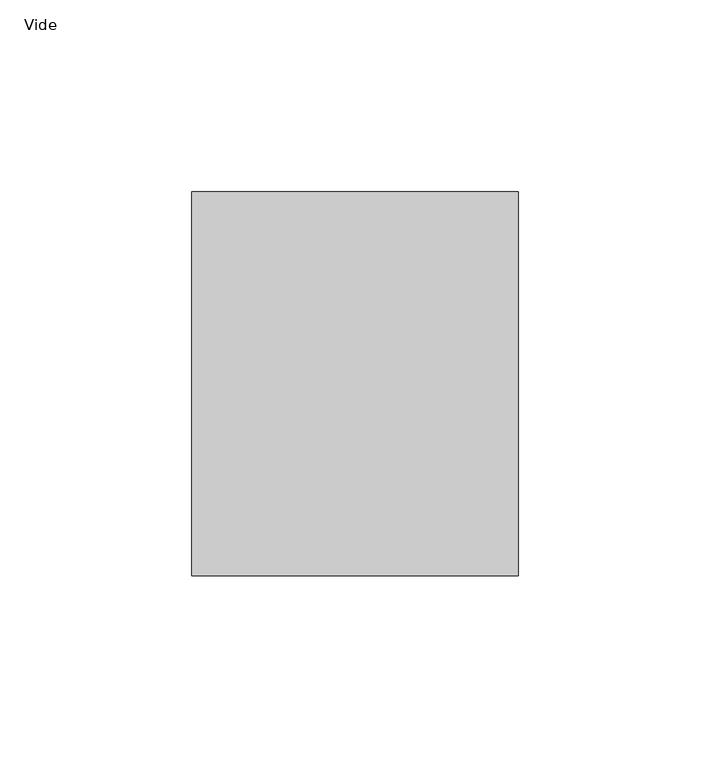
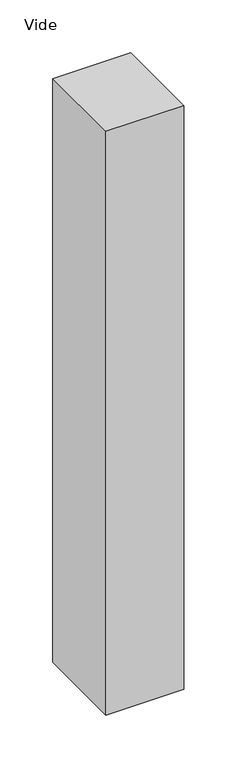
"""IFC4 building model written with IfcOpenShell, lengths in millimetres: plate geometry, Panneau système vide : Vide."""

from ifc_helpers import new_model, si_unit, origin, origin_with_axes, place, context, project, spatial, polyline, outline, extrude, source, transform, mapped, element, save


def vide_02c59cd9(model_context):
    return source(origin(), model_context, "Body", "SweptSolid", [
        extrude(outline(polyline([(42.5, 50.0), (-42.5, 50.0), (-42.5, 150.0), (42.5, 150.0), (42.5, 50.0)])), origin_with_axes(), (0.0, 0.0, 1.0), 672.9295173),
    ])


if __name__ == "__main__":
    model = new_model("IFC4")
    model_context = context("Model", 3, world=origin())
    ifc_project = project(units=[si_unit("LENGTHUNIT", "METRE", prefix="MILLI")], contexts=[model_context])
    site = spatial("IfcSite", under=ifc_project)
    building = spatial("IfcBuilding", under=site)
    placement = place(None, origin())
    vide_shape = vide_02c59cd9(model_context)
    element("IfcPlate", 1, ObjectType="Panneau système vide : Vide", at=placement, inside=building, context=model_context, shape_type="MappedRepresentation", body=[
        mapped(vide_shape, transform((0.0, 0.0, 0.0), x_axis=(1.0, 0.0, 0.0), y_axis=(0.0, 1.0, 0.0), z_axis=(0.0, 0.0, 1.0))),
    ])
    save(model, "model.ifc")
